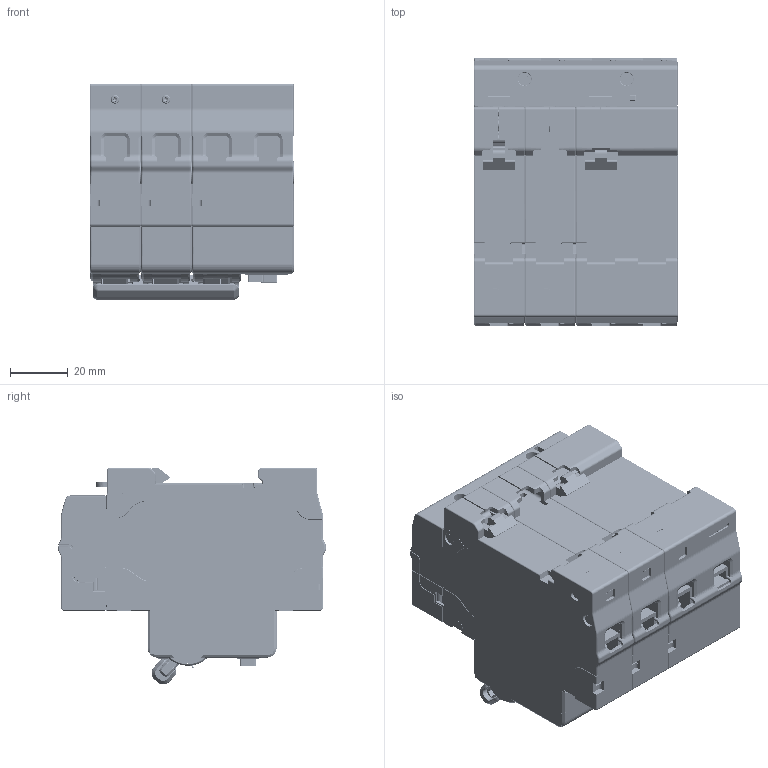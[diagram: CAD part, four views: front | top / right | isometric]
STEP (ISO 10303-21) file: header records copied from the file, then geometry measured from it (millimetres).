
FILE_DESCRIPTION((''),'2;1');
FILE_NAME('2290007900_SW0002','2020-05-29T',('yuan.lu'),(''),'PRO/ENGINEER BY PARAMETRIC TECHNOLOGY CORPORATION, 2015440','PRO/ENGINEER BY PARAMETRIC TECHNOLOGY CORPORATION, 2015440','');
FILE_SCHEMA(('CONFIG_CONTROL_DESIGN'));
Products named in the file (1): 2290007900_SW0002
Bounding box: 71.05 x 92.98 x 75.3 mm (x, y, z)
Volume: 299241.7 mm3; surface area: 102010.5 mm2
Topology: 9 solids, 9 shells, 8332 faces, 22376 edges, 14027 vertices
Faces by surface type: plane 5229, cylinder 1990, cone 354, torus 329, extrusion 291, bspline 77, sphere 62
Entity records: 264330 total; most frequent: CARTESIAN_POINT 56531, ORIENTED_EDGE 44738, DIRECTION 41328, EDGE_CURVE 22369, VECTOR 16404, LINE 16113, VERTEX_POINT 14027, AXIS2_PLACEMENT_3D 12462
